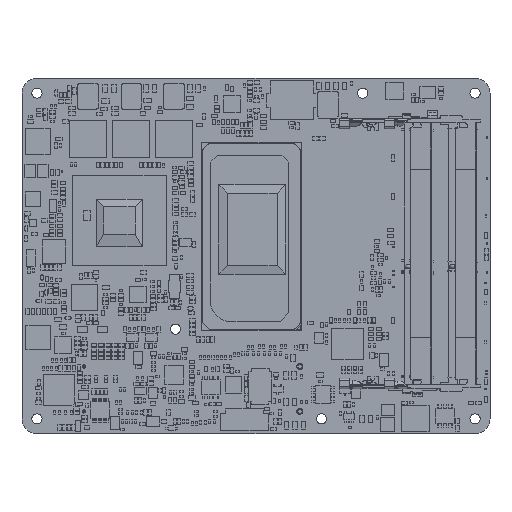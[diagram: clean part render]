
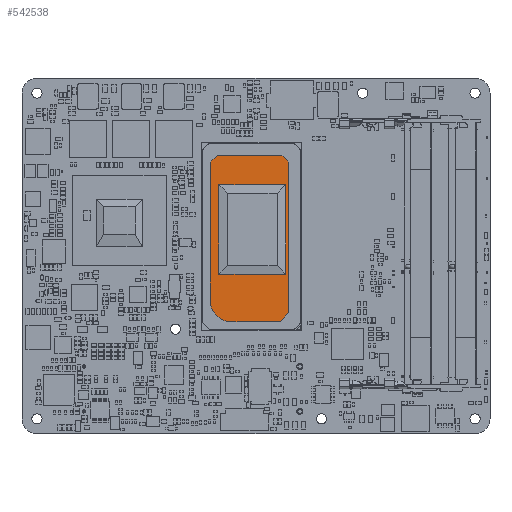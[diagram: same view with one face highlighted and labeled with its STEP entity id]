
A CAD part, top view. The second image highlights one B-rep face of the part: STEP entity #542538.
In plain terms, the highlighted planar face has unit normal (0, 0, 1) as drawn and (0, 1, 0) by its records, which use the part's own axes.
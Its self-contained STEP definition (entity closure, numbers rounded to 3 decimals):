
#541487=DIRECTION('',(-0.707,0.,0.707));
#541488=VECTOR('',#541487,3.121);
#541489=CARTESIAN_POINT('',(9.854,0.719,20.396));
#541490=LINE('',#541489,#541488);
#541491=CARTESIAN_POINT('',(7.293,0.719,22.25));
#541492=DIRECTION('',(0.,-1.,0.));
#541493=DIRECTION('',(0.707,0.,0.707));
#541494=AXIS2_PLACEMENT_3D('',#541491,#541492,#541493);
#541496=DIRECTION('',(-1.,0.,0.));
#541497=VECTOR('',#541496,12.793);
#541498=CARTESIAN_POINT('',(7.293,0.719,22.75));
#541499=LINE('',#541498,#541497);
#541500=CARTESIAN_POINT('',(-5.5,0.719,17.25));
#541501=DIRECTION('',(0.,-1.,0.));
#541502=DIRECTION('',(0.,0.,1.));
#541503=AXIS2_PLACEMENT_3D('',#541500,#541501,#541502);
#541505=DIRECTION('',(0.,0.,-1.));
#541506=VECTOR('',#541505,36.793);
#541507=CARTESIAN_POINT('',(-11.,0.719,17.25));
#541508=LINE('',#541507,#541506);
#541509=CARTESIAN_POINT('',(-10.5,0.719,-19.543));
#541510=DIRECTION('',(0.,-1.,0.));
#541511=DIRECTION('',(-1.,0.,0.));
#541512=AXIS2_PLACEMENT_3D('',#541509,#541510,#541511);
#541514=DIRECTION('',(0.707,0.,-0.707));
#541515=VECTOR('',#541514,2.414);
#541516=CARTESIAN_POINT('',(-10.854,0.719,-19.896));
#541517=LINE('',#541516,#541515);
#541518=CARTESIAN_POINT('',(-8.793,0.719,-21.25));
#541519=DIRECTION('',(0.,-1.,0.));
#541520=DIRECTION('',(-0.707,0.,-0.707));
#541521=AXIS2_PLACEMENT_3D('',#541518,#541519,#541520);
#541523=DIRECTION('',(1.,0.,0.));
#541524=VECTOR('',#541523,16.586);
#541525=CARTESIAN_POINT('',(-8.793,0.719,-21.75));
#541526=LINE('',#541525,#541524);
#541527=CARTESIAN_POINT('',(7.793,0.719,-21.25));
#541528=DIRECTION('',(0.,-1.,0.));
#541529=DIRECTION('',(0.,0.,-1.));
#541530=AXIS2_PLACEMENT_3D('',#541527,#541528,#541529);
#541532=DIRECTION('',(0.707,0.,0.707));
#541533=VECTOR('',#541532,2.414);
#541534=CARTESIAN_POINT('',(8.146,0.719,-21.604));
#541535=LINE('',#541534,#541533);
#541536=CARTESIAN_POINT('',(9.5,0.719,-19.543));
#541537=DIRECTION('',(0.,-1.,0.));
#541538=DIRECTION('',(0.707,0.,-0.707));
#541539=AXIS2_PLACEMENT_3D('',#541536,#541537,#541538);
#541541=DIRECTION('',(0.,0.,1.));
#541542=VECTOR('',#541541,39.586);
#541543=CARTESIAN_POINT('',(10.,0.719,-19.543));
#541544=LINE('',#541543,#541542);
#541545=CARTESIAN_POINT('',(9.5,0.719,20.043));
#541546=DIRECTION('',(0.,-1.,0.));
#541547=DIRECTION('',(1.,0.,0.));
#541548=AXIS2_PLACEMENT_3D('',#541545,#541546,#541547);
#541562=DIRECTION('',(0.,0.,1.));
#541563=VECTOR('',#541562,23.934);
#541564=CARTESIAN_POINT('',(-8.734,0.719,-13.867));
#541565=LINE('',#541564,#541563);
#541574=DIRECTION('',(1.,0.,0.));
#541575=VECTOR('',#541574,17.88);
#541576=CARTESIAN_POINT('',(-8.734,0.719,-13.867));
#541577=LINE('',#541576,#541575);
#541582=DIRECTION('',(0.,0.,1.));
#541583=VECTOR('',#541582,23.934);
#541584=CARTESIAN_POINT('',(9.146,0.719,-13.867));
#541585=LINE('',#541584,#541583);
#541594=DIRECTION('',(1.,0.,0.));
#541595=VECTOR('',#541594,17.88);
#541596=CARTESIAN_POINT('',(-8.734,0.719,10.067));
#541597=LINE('',#541596,#541595);
#542145=CARTESIAN_POINT('',(-8.734,0.719,-13.867));
#542146=CARTESIAN_POINT('',(-8.734,0.719,10.067));
#542147=VERTEX_POINT('',#542145);
#542148=VERTEX_POINT('',#542146);
#542149=CARTESIAN_POINT('',(9.146,0.719,10.067));
#542150=VERTEX_POINT('',#542149);
#542151=CARTESIAN_POINT('',(9.146,0.719,-13.867));
#542152=VERTEX_POINT('',#542151);
#542213=CARTESIAN_POINT('',(9.854,0.719,20.396));
#542214=CARTESIAN_POINT('',(7.646,0.719,22.604));
#542215=VERTEX_POINT('',#542213);
#542216=VERTEX_POINT('',#542214);
#542217=CARTESIAN_POINT('',(10.,0.719,20.043));
#542218=VERTEX_POINT('',#542217);
#542219=CARTESIAN_POINT('',(10.,0.719,-19.543));
#542220=VERTEX_POINT('',#542219);
#542221=CARTESIAN_POINT('',(9.854,0.719,-19.896));
#542222=VERTEX_POINT('',#542221);
#542223=CARTESIAN_POINT('',(8.146,0.719,-21.604));
#542224=VERTEX_POINT('',#542223);
#542225=CARTESIAN_POINT('',(7.793,0.719,-21.75));
#542226=VERTEX_POINT('',#542225);
#542227=CARTESIAN_POINT('',(-8.793,0.719,-21.75));
#542228=VERTEX_POINT('',#542227);
#542229=CARTESIAN_POINT('',(-9.146,0.719,-21.604));
#542230=VERTEX_POINT('',#542229);
#542231=CARTESIAN_POINT('',(-10.854,0.719,-19.896));
#542232=VERTEX_POINT('',#542231);
#542233=CARTESIAN_POINT('',(-11.,0.719,-19.543));
#542234=VERTEX_POINT('',#542233);
#542235=CARTESIAN_POINT('',(-11.,0.719,17.25));
#542236=VERTEX_POINT('',#542235);
#542237=CARTESIAN_POINT('',(-5.5,0.719,22.75));
#542238=VERTEX_POINT('',#542237);
#542239=CARTESIAN_POINT('',(7.293,0.719,22.75));
#542240=VERTEX_POINT('',#542239);
#542493=CARTESIAN_POINT('',(-12.625,0.719,-24.425));
#542494=DIRECTION('',(0.,1.,0.));
#542495=DIRECTION('',(0.,0.,1.));
#542496=AXIS2_PLACEMENT_3D('',#542493,#542494,#542495);
#542497=PLANE('',#542496);
#542499=ORIENTED_EDGE('',*,*,#542498,.T.);
#542501=ORIENTED_EDGE('',*,*,#542500,.T.);
#542503=ORIENTED_EDGE('',*,*,#542502,.T.);
#542505=ORIENTED_EDGE('',*,*,#542504,.T.);
#542507=ORIENTED_EDGE('',*,*,#542506,.T.);
#542509=ORIENTED_EDGE('',*,*,#542508,.T.);
#542511=ORIENTED_EDGE('',*,*,#542510,.T.);
#542513=ORIENTED_EDGE('',*,*,#542512,.T.);
#542515=ORIENTED_EDGE('',*,*,#542514,.T.);
#542517=ORIENTED_EDGE('',*,*,#542516,.T.);
#542519=ORIENTED_EDGE('',*,*,#542518,.T.);
#542521=ORIENTED_EDGE('',*,*,#542520,.T.);
#542523=ORIENTED_EDGE('',*,*,#542522,.T.);
#542525=ORIENTED_EDGE('',*,*,#542524,.T.);
#542526=EDGE_LOOP('',(#542499,#542501,#542503,#542505,#542507,#542509,#542511,
#542513,#542515,#542517,#542519,#542521,#542523,#542525));
#542527=FACE_OUTER_BOUND('',#542526,.F.);
#542529=ORIENTED_EDGE('',*,*,#542528,.T.);
#542531=ORIENTED_EDGE('',*,*,#542530,.T.);
#542533=ORIENTED_EDGE('',*,*,#542532,.F.);
#542535=ORIENTED_EDGE('',*,*,#542534,.F.);
#542536=EDGE_LOOP('',(#542529,#542531,#542533,#542535));
#542537=FACE_BOUND('',#542536,.F.);
#542538=ADVANCED_FACE('',(#542527,#542537),#542497,.T.);
#541495=CIRCLE('',#541494,0.5);
#541504=CIRCLE('',#541503,5.5);
#541513=CIRCLE('',#541512,0.5);
#541522=CIRCLE('',#541521,0.5);
#541531=CIRCLE('',#541530,0.5);
#541540=CIRCLE('',#541539,0.5);
#541549=CIRCLE('',#541548,0.5);
#542498=EDGE_CURVE('',#542215,#542216,#541490,.T.);
#542500=EDGE_CURVE('',#542216,#542240,#541495,.T.);
#542502=EDGE_CURVE('',#542240,#542238,#541499,.T.);
#542504=EDGE_CURVE('',#542238,#542236,#541504,.T.);
#542506=EDGE_CURVE('',#542236,#542234,#541508,.T.);
#542508=EDGE_CURVE('',#542234,#542232,#541513,.T.);
#542510=EDGE_CURVE('',#542232,#542230,#541517,.T.);
#542512=EDGE_CURVE('',#542230,#542228,#541522,.T.);
#542514=EDGE_CURVE('',#542228,#542226,#541526,.T.);
#542516=EDGE_CURVE('',#542226,#542224,#541531,.T.);
#542518=EDGE_CURVE('',#542224,#542222,#541535,.T.);
#542520=EDGE_CURVE('',#542222,#542220,#541540,.T.);
#542522=EDGE_CURVE('',#542220,#542218,#541544,.T.);
#542524=EDGE_CURVE('',#542218,#542215,#541549,.T.);
#542528=EDGE_CURVE('',#542147,#542148,#541565,.T.);
#542530=EDGE_CURVE('',#542148,#542150,#541597,.T.);
#542532=EDGE_CURVE('',#542152,#542150,#541585,.T.);
#542534=EDGE_CURVE('',#542147,#542152,#541577,.T.);
